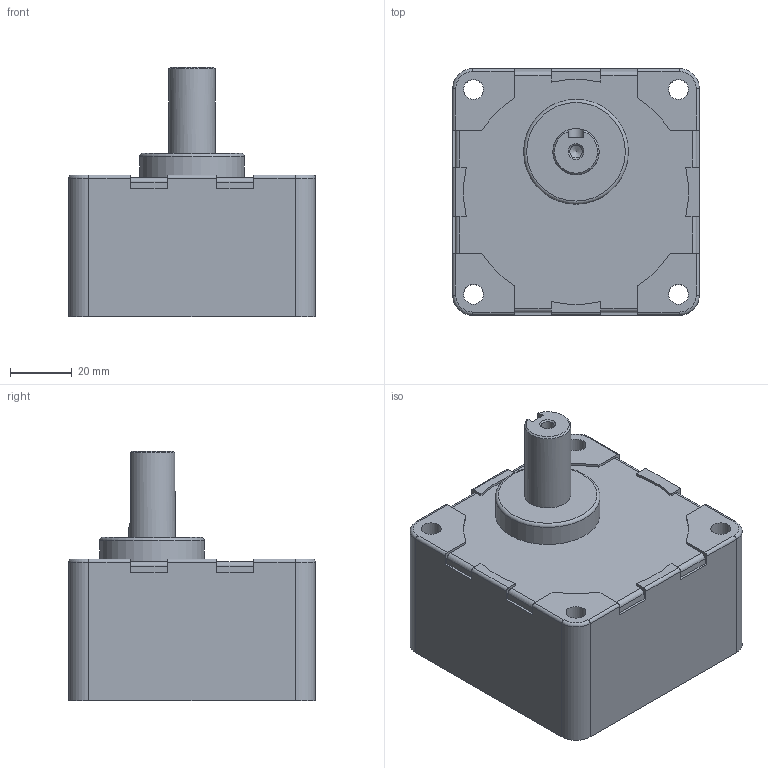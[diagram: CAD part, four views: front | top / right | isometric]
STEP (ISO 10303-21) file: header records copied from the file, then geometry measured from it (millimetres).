
FILE_DESCRIPTION(/* description */ (''),/* implementation_level */ '2;1');
FILE_NAME(/* name */ 'E:\도면작업\2016\0704) 미주향 SG 도면\3D GEAR HEAD\SG8KA30~120.stp',/* time_stamp */ '2016-07-22T14:03:09+09:00',/* author */ ('jy-jung'),/* organization */ (''),/* preprocessor_version */ 'ST-DEVELOPER v15.6',/* originating_system */ 'Autodesk Inventor 2015',/* authorisation */ '');
FILE_SCHEMA (('AUTOMOTIVE_DESIGN { 1 0 10303 214 3 1 1 }'));
Length unit declared in the file: millimetre
Products named in the file (1): SG8KA30~120
Bounding box: 80 x 80 x 81 mm (x, y, z)
Volume: 283381.6 mm3; surface area: 33669.2 mm2
Topology: 1 solids, 1 shells, 104 faces, 282 edges, 184 vertices
Faces by surface type: plane 53, cylinder 41, cone 5, torus 5
Full cylindrical faces by diameter (mm): 4.134 x1, 6.5 x4, 7.5 x1, 15 x1, 34 x1, 73 x1
Entity records: 3244 total; most frequent: CARTESIAN_POINT 575, DIRECTION 562, ORIENTED_EDGE 532, EDGE_CURVE 266, AXIS2_PLACEMENT_3D 195, VERTEX_POINT 182, LINE 172, VECTOR 172
